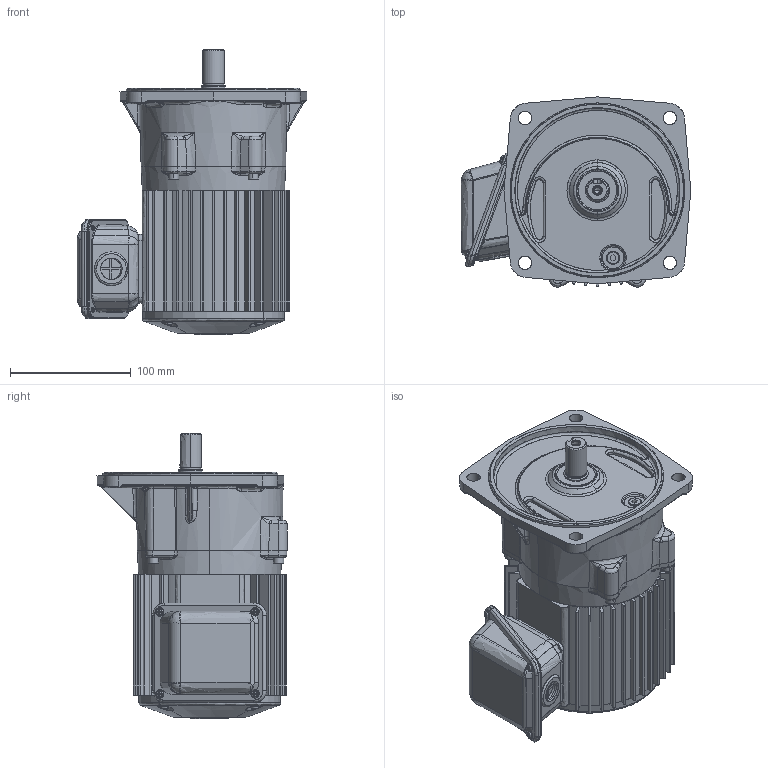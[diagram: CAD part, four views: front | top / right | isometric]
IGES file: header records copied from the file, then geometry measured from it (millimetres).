
Start section: SolidWorks IGES file using analytic representation for surfaces
Global section: file name: \\100.100.100.8\1_共有作業フォルダ\1-5_３Ｄデータ\solidworks\personal-folder\H.Nagayama\SGP1外形\P1(3D)\igs\TMF2-01-(5~50).IGS; native system: SolidWorks 2018; preprocessor: SolidWorks 2018; author: sigma-giken; date: 200508.140606; units: millimetre
Bounding box: 190.53 x 157.66 x 236.5 mm (x, y, z)
Surface area: 311557.7 mm2 (no closed solid volume)
Topology: 0 solids, 0 shells, 1435 faces, 17958 edges, 17906 vertices
Faces by surface type: bspline 779, revolution 656
